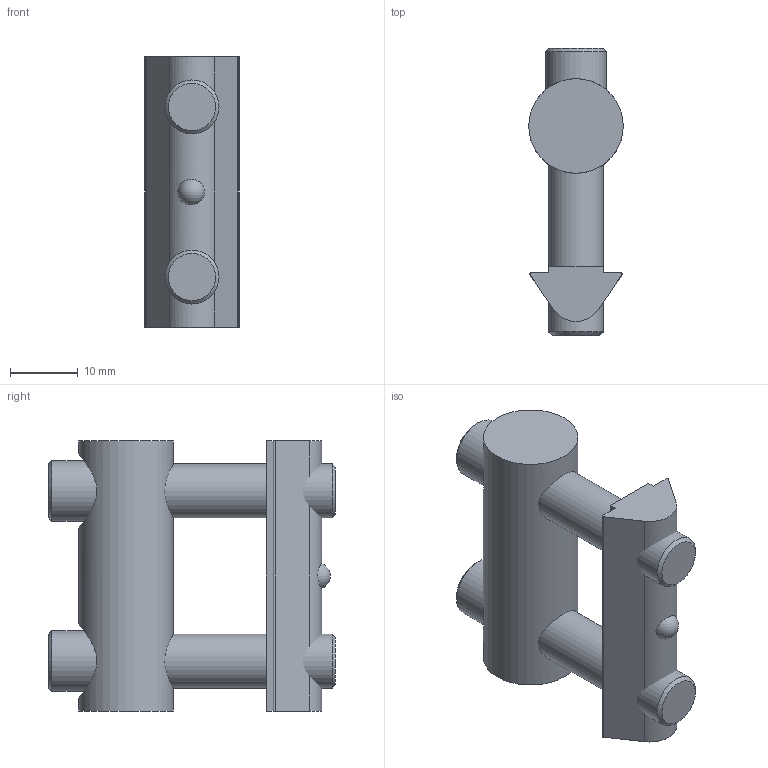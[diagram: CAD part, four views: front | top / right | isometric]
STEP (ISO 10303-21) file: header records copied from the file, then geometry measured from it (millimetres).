
FILE_DESCRIPTION((''),'2;1');
FILE_NAME('E:\catalogue and flyer\Profile catalogue 2015\Accessories JE info\Accessories-JE step file 31MAr16\JE-BC4040-8.stp','2016-03-31T15:00:02',('h029'),(''),'Autodesk Inventor 11','Autodesk Inventor 11','');
FILE_SCHEMA(('AUTOMOTIVE_DESIGN { 1 0 10303 214 1 1 1 1 }'));
Length unit declared in the file: millimetre
Products named in the file (4): JE-BC4040-8; Rod; JE-HRN8-8 (4040); special screw M8x35
Assembly tree (4 placements, depth 2):
  JE-BC4040-8
    Rod
    JE-HRN8-8 (4040)
    special screw M8x35  x2
Bounding box: 14 x 42.5 x 40 mm (x, y, z)
Volume: 11103.1 mm3; surface area: 6859.1 mm2
Topology: 4 solids, 4 shells, 66 faces, 150 edges, 97 vertices
Faces by surface type: plane 31, cylinder 22, bspline 8, cone 4, sphere 1
Full cylindrical faces by diameter (mm): 8 x2, 9 x2, 14 x1
Entity records: 1927 total; most frequent: CARTESIAN_POINT 832, DIRECTION 204, ORIENTED_EDGE 186, EDGE_CURVE 93, AXIS2_PLACEMENT_3D 76, EDGE_LOOP 68, VERTEX_POINT 67, VECTOR 52
